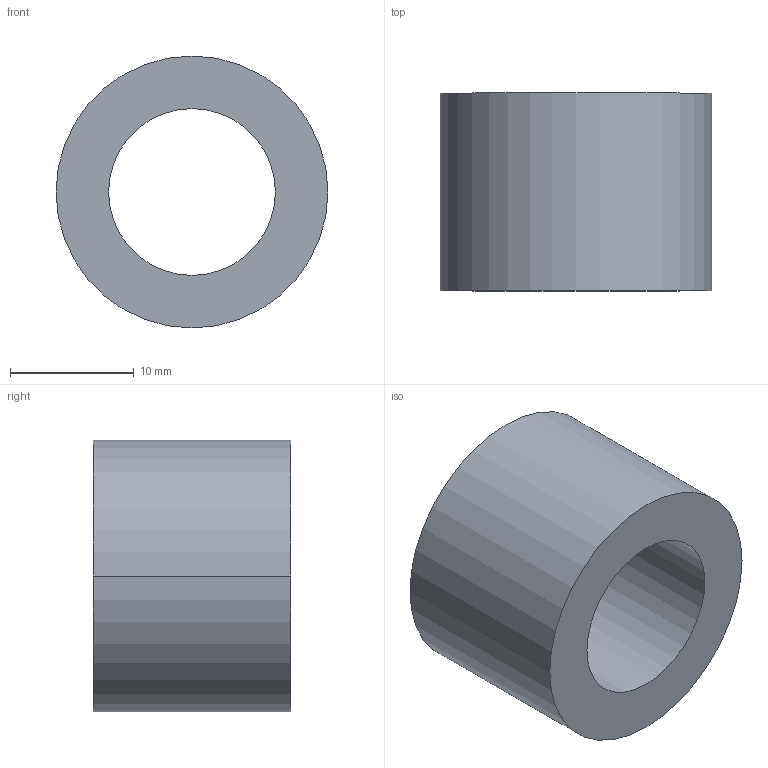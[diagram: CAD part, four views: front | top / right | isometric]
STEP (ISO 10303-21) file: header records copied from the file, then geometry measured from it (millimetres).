
FILE_DESCRIPTION (( 'STEP AP203' ), '1' );
FILE_NAME ('30800.WPP22F13.5.step', '2019-01-23T22:41:41', ( '' ), ( '' ), 'SwSTEP 2.0', 'SolidWorks 2017', '' );
FILE_SCHEMA (( 'CONFIG_CONTROL_DESIGN' ));
Length unit declared in the file: millimetre
Products named in the file (1): 30800.WPP22F13.5
Bounding box: 22 x 16 x 22 mm (x, y, z)
Volume: 3753.1 mm3; surface area: 2223.8 mm2
Topology: 1 solids, 1 shells, 8 faces, 16 edges, 10 vertices
Faces by surface type: cylinder 4, torus 2, plane 2
Entity records: 297 total; most frequent: DIRECTION 46, CARTESIAN_POINT 35, ORIENTED_EDGE 32, AXIS2_PLACEMENT_3D 21, EDGE_CURVE 16, CIRCLE 12, EDGE_LOOP 10, VERTEX_POINT 10
